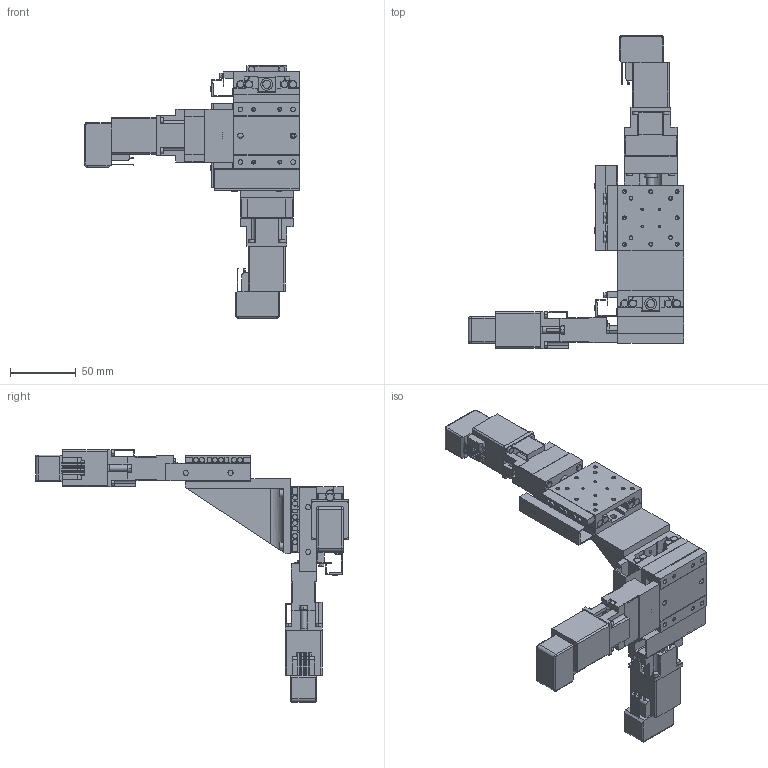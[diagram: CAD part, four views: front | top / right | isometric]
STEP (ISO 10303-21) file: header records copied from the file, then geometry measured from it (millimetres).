
FILE_DESCRIPTION(('STEP AP203'),'1');
FILE_NAME('C:/3D-Trans/3D_PMZG513T-L□-ZA+240129.step','2024-03-14T08:45:41',(' '),(' '),'Spatial InterOp 3D',' ',' ');
FILE_SCHEMA(('CONFIG_CONTROL_DESIGN'));
Length unit declared in the file: millimetre
Products named in the file (19): 1; 2; 3; 4; 5; 6; 7; 8; 9; 10; 11; 12; 13; 14; 15; 16; 17; 18; 19
Bounding box: 163.5 x 237.5 x 191.5 mm (x, y, z)
Volume: 384017 mm3; surface area: 160686.5 mm2
Topology: 19 solids, 19 shells, 1934 faces, 4936 edges, 3072 vertices
Faces by surface type: plane 959, cylinder 679, cone 284, torus 12
Entity records: 59563 total; most frequent: CARTESIAN_POINT 10948, DIRECTION 10364, ORIENTED_EDGE 9704, EDGE_CURVE 4852, AXIS2_PLACEMENT_3D 3664, VERTEX_POINT 3072, LINE 3036, VECTOR 3036
